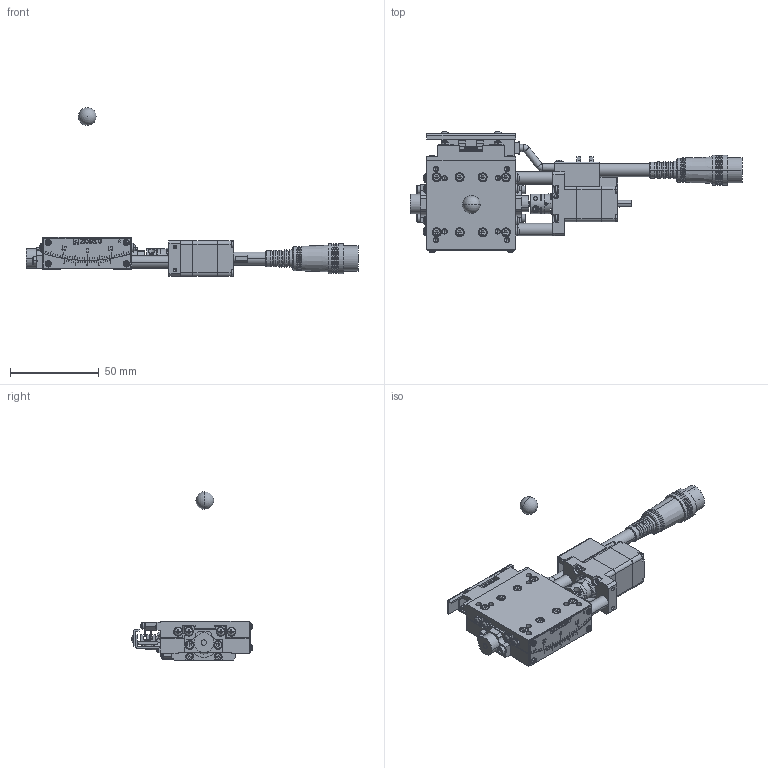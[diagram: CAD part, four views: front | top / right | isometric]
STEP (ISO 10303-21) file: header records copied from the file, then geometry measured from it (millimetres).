
FILE_DESCRIPTION (( 'STEP AP203' ), '1' );
FILE_NAME ('SA05A-R2M01.STEP', '2019-12-02T07:26:12', ( '' ), ( '' ), 'SwSTEP 2.0', 'SolidWorks 2018', '' );
FILE_SCHEMA (( 'CONFIG_CONTROL_DESIGN' ));
Length unit declared in the file: millimetre
Products named in the file (8): base-Part-1; table-Part-1; table; base-Part-3; rotation center; SA05A-R2M01; base; base-Part-2
Assembly tree (7 placements, depth 3):
  SA05A-R2M01
    table
      table-Part-1
    base
      base-Part-1
      base-Part-2
      base-Part-3
    rotation center
Bounding box: 187 x 67.96 x 95 mm (x, y, z)
Volume: 76955.8 mm3; surface area: 39314.4 mm2
Topology: 5 solids, 5 shells, 2496 faces, 6290 edges, 3903 vertices
Faces by surface type: plane 1556, cylinder 548, cone 202, torus 134, sphere 50, bspline 6
Entity records: 77185 total; most frequent: CARTESIAN_POINT 15620, DIRECTION 13102, ORIENTED_EDGE 12406, EDGE_CURVE 6203, AXIS2_PLACEMENT_3D 4614, VERTEX_POINT 3896, LINE 3874, VECTOR 3874
